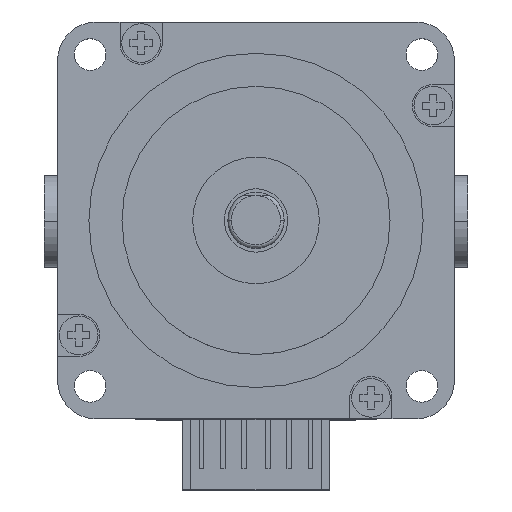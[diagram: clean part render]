
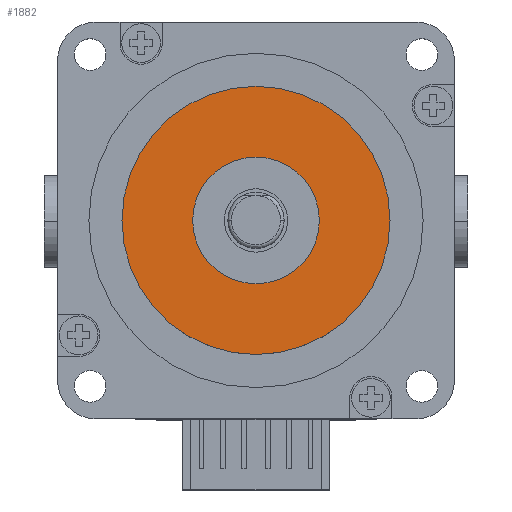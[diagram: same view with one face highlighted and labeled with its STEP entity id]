
A CAD part, top view. The second image highlights one B-rep face of the part: STEP entity #1882.
In plain terms, the highlighted planar face has unit normal (0, 0, 1).
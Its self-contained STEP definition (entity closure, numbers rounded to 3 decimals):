
#158 = AXIS2_PLACEMENT_3D ( 'NONE', #9398, #4956, #1352 ) ;
#889 = CIRCLE ( 'NONE', #158, 9. ) ;
#1352 = DIRECTION ( 'NONE',  ( -1., 0., 0. ) ) ;
#1570 = AXIS2_PLACEMENT_3D ( 'NONE', #8866, #7401, #3062 ) ;
#1882 = ADVANCED_FACE ( 'NONE', ( #6146, #7880 ), #2300, .F. ) ;
#1944 = EDGE_CURVE ( 'NONE', #6566, #2125, #2202, .T. ) ;
#2125 = VERTEX_POINT ( 'NONE', #8687 ) ;
#2202 = CIRCLE ( 'NONE', #2988, 19.05 ) ;
#2300 = PLANE ( 'NONE',  #4914 ) ;
#2988 = AXIS2_PLACEMENT_3D ( 'NONE', #3959, #9054, #6794 ) ;
#3052 = CARTESIAN_POINT ( 'NONE',  ( 0., 0., 1.6 ) ) ;
#3055 = VERTEX_POINT ( 'NONE', #8319 ) ;
#3060 = CARTESIAN_POINT ( 'NONE',  ( -9., 0., 1.6 ) ) ;
#3062 = DIRECTION ( 'NONE',  ( -1., 0., 0. ) ) ;
#3716 = EDGE_CURVE ( 'NONE', #2125, #6566, #7926, .T. ) ;
#3751 = DIRECTION ( 'NONE',  ( 0., 0., -1. ) ) ;
#3959 = CARTESIAN_POINT ( 'NONE',  ( 0., 0., 1.6 ) ) ;
#4141 = EDGE_CURVE ( 'NONE', #6386, #3055, #889, .T. ) ;
#4263 = AXIS2_PLACEMENT_3D ( 'NONE', #6078, #6136, #6880 ) ;
#4521 = EDGE_LOOP ( 'NONE', ( #7598, #5137 ) ) ;
#4530 = CARTESIAN_POINT ( 'NONE',  ( 19.05, 0., 1.6 ) ) ;
#4874 = EDGE_CURVE ( 'NONE', #3055, #6386, #6538, .T. ) ;
#4914 = AXIS2_PLACEMENT_3D ( 'NONE', #3052, #3751, #6703 ) ;
#4956 = DIRECTION ( 'NONE',  ( 0., 0., 1. ) ) ;
#5137 = ORIENTED_EDGE ( 'NONE', *, *, #3716, .T. ) ;
#5457 = ORIENTED_EDGE ( 'NONE', *, *, #4141, .F. ) ;
#6078 = CARTESIAN_POINT ( 'NONE',  ( 0., 0., 1.6 ) ) ;
#6136 = DIRECTION ( 'NONE',  ( 0., 0., 1. ) ) ;
#6146 = FACE_BOUND ( 'NONE', #6651, .T. ) ;
#6386 = VERTEX_POINT ( 'NONE', #3060 ) ;
#6538 = CIRCLE ( 'NONE', #1570, 9. ) ;
#6566 = VERTEX_POINT ( 'NONE', #4530 ) ;
#6651 = EDGE_LOOP ( 'NONE', ( #5457, #8999 ) ) ;
#6703 = DIRECTION ( 'NONE',  ( -1., 0., 0. ) ) ;
#6794 = DIRECTION ( 'NONE',  ( 1., 0., 0. ) ) ;
#6880 = DIRECTION ( 'NONE',  ( 1., 0., 0. ) ) ;
#7401 = DIRECTION ( 'NONE',  ( 0., 0., 1. ) ) ;
#7598 = ORIENTED_EDGE ( 'NONE', *, *, #1944, .T. ) ;
#7880 = FACE_OUTER_BOUND ( 'NONE', #4521, .T. ) ;
#7926 = CIRCLE ( 'NONE', #4263, 19.05 ) ;
#8319 = CARTESIAN_POINT ( 'NONE',  ( 9., 0., 1.6 ) ) ;
#8687 = CARTESIAN_POINT ( 'NONE',  ( -19.05, 0., 1.6 ) ) ;
#8866 = CARTESIAN_POINT ( 'NONE',  ( 0., 0., 1.6 ) ) ;
#8999 = ORIENTED_EDGE ( 'NONE', *, *, #4874, .F. ) ;
#9054 = DIRECTION ( 'NONE',  ( 0., 0., 1. ) ) ;
#9398 = CARTESIAN_POINT ( 'NONE',  ( 0., 0., 1.6 ) ) ;
